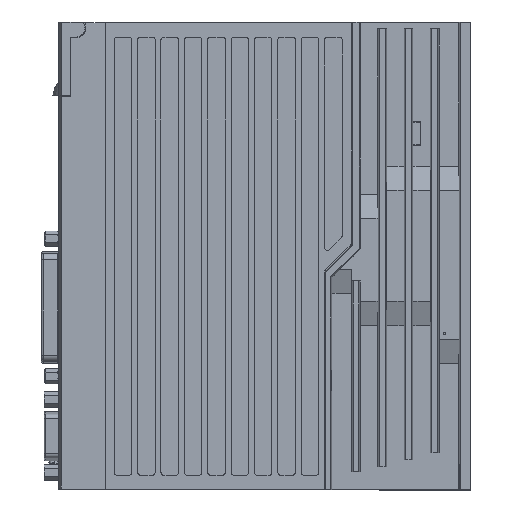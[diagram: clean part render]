
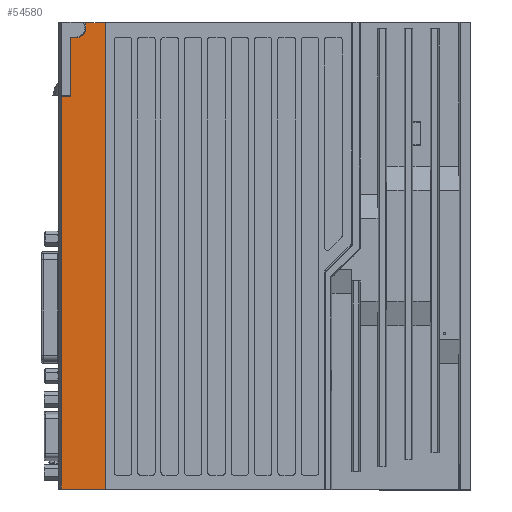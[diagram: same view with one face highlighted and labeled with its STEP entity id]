
A CAD part, top view. The second image highlights one B-rep face of the part: STEP entity #54580.
In plain terms, the highlighted planar face has unit normal (-0.018, 0, 1).
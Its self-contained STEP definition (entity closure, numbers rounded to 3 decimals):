
#7109=CARTESIAN_POINT('',(-0.153,0.268,
20.736));
#7111=CARTESIAN_POINT('',(-0.153,0.268,
20.736));
#7112=CARTESIAN_POINT('',(1.513,0.239,20.765));
#7113=CARTESIAN_POINT('',(4.856,0.176,20.823));
#7114=CARTESIAN_POINT('',(9.907,0.089,20.911));
#7115=CARTESIAN_POINT('',(13.298,0.03,20.97));
#7116=CARTESIAN_POINT('',(15.,0.,21.));
#7211=DIRECTION('',(0.,-1.,0.));
#7212=VECTOR('',#7211,160.);
#7213=CARTESIAN_POINT('',(15.,160.,21.));
#7214=LINE('',#7213,#7212);
#7215=CARTESIAN_POINT('',(-0.153,134.732,
20.736));
#7216=CARTESIAN_POINT('',(0.194,134.738,20.742));
#7217=CARTESIAN_POINT('',(0.889,134.755,20.754));
#7218=CARTESIAN_POINT('',(1.94,134.772,20.772));
#7219=CARTESIAN_POINT('',(2.646,134.784,20.784));
#7220=CARTESIAN_POINT('',(3.,134.791,20.791));
#7222=DIRECTION('',(0.,1.,0.));
#7223=VECTOR('',#7222,0.253);
#7224=CARTESIAN_POINT('',(3.,134.791,20.791));
#7225=LINE('',#7224,#7223);
#7226=CARTESIAN_POINT('',(5.,154.8,20.825));
#7227=CARTESIAN_POINT('',(5.078,154.8,20.827));
#7228=CARTESIAN_POINT('',(5.233,154.806,20.83));
#7229=CARTESIAN_POINT('',(5.468,154.831,20.834));
#7230=CARTESIAN_POINT('',(5.703,154.875,20.838));
#7231=CARTESIAN_POINT('',(5.934,154.936,20.842));
#7232=CARTESIAN_POINT('',(6.161,155.015,20.846));
#7233=CARTESIAN_POINT('',(6.383,155.111,20.85));
#7234=CARTESIAN_POINT('',(6.597,155.223,20.853));
#7235=CARTESIAN_POINT('',(6.801,155.351,20.857));
#7236=CARTESIAN_POINT('',(6.996,155.495,20.86));
#7237=CARTESIAN_POINT('',(7.178,155.652,20.863));
#7238=CARTESIAN_POINT('',(7.348,155.822,20.866));
#7239=CARTESIAN_POINT('',(7.505,156.004,20.869));
#7240=CARTESIAN_POINT('',(7.649,156.199,20.872));
#7241=CARTESIAN_POINT('',(7.776,156.403,20.874));
#7242=CARTESIAN_POINT('',(7.889,156.616,20.876));
#7243=CARTESIAN_POINT('',(7.985,156.838,20.878));
#7244=CARTESIAN_POINT('',(8.064,157.066,20.879));
#7245=CARTESIAN_POINT('',(8.125,157.297,20.88));
#7246=CARTESIAN_POINT('',(8.168,157.531,20.881));
#7247=CARTESIAN_POINT('',(8.194,157.767,20.881));
#7248=CARTESIAN_POINT('',(8.2,157.922,20.881));
#7249=CARTESIAN_POINT('',(8.2,158.,20.881));
#7251=DIRECTION('',(0.,1.,0.));
#7252=VECTOR('',#7251,1.881);
#7253=CARTESIAN_POINT('',(8.2,158.,20.881));
#7254=LINE('',#7253,#7252);
#7255=DIRECTION('',(1.,0.017,0.017));
#7256=VECTOR('',#7255,6.802);
#7257=CARTESIAN_POINT('',(8.2,159.881,20.881));
#7258=LINE('',#7257,#7256);
#16961=DIRECTION('',(0.,-1.,0.));
#16962=VECTOR('',#16961,134.464);
#16963=CARTESIAN_POINT('',(-0.153,134.732,
20.736));
#16964=LINE('',#16963,#16962);
#17473=DIRECTION('',(0.,-1.,0.));
#17474=VECTOR('',#17473,19.756);
#17475=CARTESIAN_POINT('',(3.,154.8,20.791));
#17476=LINE('',#17475,#17474);
#17751=DIRECTION('',(-1.,0.,-0.017));
#17752=VECTOR('',#17751,2.);
#17753=CARTESIAN_POINT('',(5.,154.8,20.825));
#17754=LINE('',#17753,#17752);
#34281=CARTESIAN_POINT('',(15.,160.,21.));
#34282=VERTEX_POINT('',#34281);
#35121=CARTESIAN_POINT('',(15.,0.,21.));
#35122=VERTEX_POINT('',#35121);
#35418=VERTEX_POINT('',#7109);
#35453=CARTESIAN_POINT('',(8.2,159.881,20.881));
#35454=VERTEX_POINT('',#35453);
#35463=CARTESIAN_POINT('',(-0.153,134.732,
20.736));
#35464=VERTEX_POINT('',#35463);
#35465=VERTEX_POINT('',#7220);
#35466=CARTESIAN_POINT('',(3.,135.044,20.791));
#35467=VERTEX_POINT('',#35466);
#35468=CARTESIAN_POINT('',(3.,154.8,20.791));
#35469=VERTEX_POINT('',#35468);
#35470=CARTESIAN_POINT('',(5.,154.8,20.825));
#35471=VERTEX_POINT('',#35470);
#35472=VERTEX_POINT('',#7249);
#54555=CARTESIAN_POINT('',(15.,0.,21.));
#54556=DIRECTION('',(-0.017,0.,1.));
#54557=DIRECTION('',(1.,0.,0.017));
#54558=AXIS2_PLACEMENT_3D('',#54555,#54556,#54557);
#54559=PLANE('',#54558);
#54561=ORIENTED_EDGE('',*,*,#54560,.T.);
#54562=ORIENTED_EDGE('',*,*,#54383,.F.);
#54564=ORIENTED_EDGE('',*,*,#54563,.F.);
#54566=ORIENTED_EDGE('',*,*,#54565,.T.);
#54568=ORIENTED_EDGE('',*,*,#54567,.T.);
#54570=ORIENTED_EDGE('',*,*,#54569,.F.);
#54572=ORIENTED_EDGE('',*,*,#54571,.F.);
#54574=ORIENTED_EDGE('',*,*,#54573,.T.);
#54576=ORIENTED_EDGE('',*,*,#54575,.T.);
#54577=ORIENTED_EDGE('',*,*,#54531,.T.);
#54578=EDGE_LOOP('',(#54561,#54562,#54564,#54566,#54568,#54570,#54572,#54574,
#54576,#54577));
#54579=FACE_OUTER_BOUND('',#54578,.F.);
#7117=B_SPLINE_CURVE_WITH_KNOTS('',3,(#7111,#7112,#7113,#7114,#7115,#7116),
.UNSPECIFIED.,.F.,.F.,(4,1,1,4),(0.,0.333,0.667,1.),
.UNSPECIFIED.);
#7221=B_SPLINE_CURVE_WITH_KNOTS('',3,(#7215,#7216,#7217,#7218,#7219,#7220),
.UNSPECIFIED.,.F.,.F.,(4,1,1,4),(0.,0.333,0.667,1.),
.UNSPECIFIED.);
#7250=B_SPLINE_CURVE_WITH_KNOTS('',3,(#7226,#7227,#7228,#7229,#7230,#7231,#7232,
#7233,#7234,#7235,#7236,#7237,#7238,#7239,#7240,#7241,#7242,#7243,#7244,#7245,
#7246,#7247,#7248,#7249),.UNSPECIFIED.,.F.,.F.,(4,1,1,1,1,1,1,1,1,1,1,1,1,1,1,1,
1,1,1,1,1,4),(0.,0.048,0.095,0.143,
0.19,0.238,0.286,0.333,
0.381,0.429,0.476,0.524,
0.571,0.619,0.667,0.714,
0.762,0.81,0.857,0.905,
0.952,1.),.UNSPECIFIED.);
#54383=EDGE_CURVE('',#35418,#35122,#7117,.T.);
#54531=EDGE_CURVE('',#35454,#34282,#7258,.T.);
#54560=EDGE_CURVE('',#34282,#35122,#7214,.T.);
#54563=EDGE_CURVE('',#35464,#35418,#16964,.T.);
#54565=EDGE_CURVE('',#35464,#35465,#7221,.T.);
#54567=EDGE_CURVE('',#35465,#35467,#7225,.T.);
#54569=EDGE_CURVE('',#35469,#35467,#17476,.T.);
#54571=EDGE_CURVE('',#35471,#35469,#17754,.T.);
#54573=EDGE_CURVE('',#35471,#35472,#7250,.T.);
#54575=EDGE_CURVE('',#35472,#35454,#7254,.T.);
#54580=ADVANCED_FACE('',(#54579),#54559,.T.);
